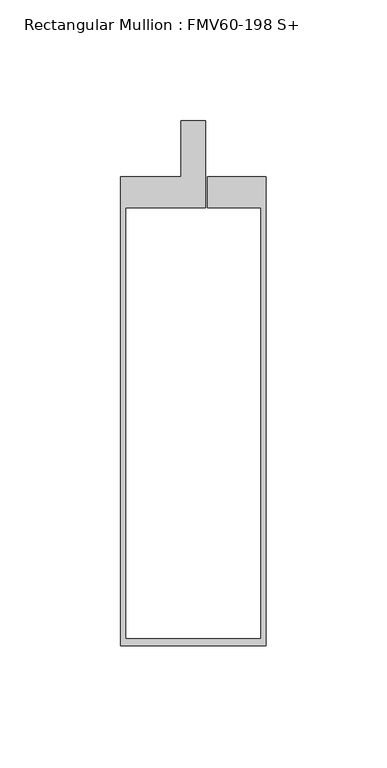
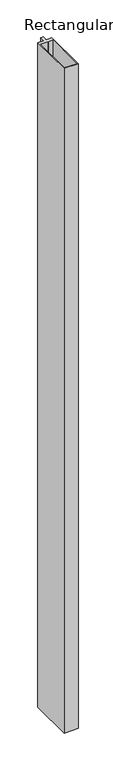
"""IFC4 building model written with IfcOpenShell, lengths in millimetres: member geometry, Rectangular Mullion : FMV60-198 S+."""

from ifc_helpers import new_model, si_unit, frame, origin, place, context, project, spatial, polyline, outline, extrude, source, transform, mapped, element, save


def rectangular_mullion_fmv60_198_s_cefb9c46(model_context):
    return source(origin(), model_context, "Body", "SweptSolid", [
        extrude(outline(polyline([(-5.0, 0.1), (-5.0, 23.0768801), (5.0, 23.0768801), (5.0, -12.9034168), (-28.0157965, -12.9034168), (-28.0157965, -190.9078947), (27.9840779, -190.9078947), (27.9840779, -12.9034168), (5.8, -12.9034168), (5.8, 0.1), (29.9842035, 0.1), (29.9842035, -193.9078947), (-30.0157965, -193.9078947), (-30.0157965, 0.1), (-5.0, 0.1)])), frame((0.0, 0.0, -3020.0), z_axis=(0.0, 0.0, 1.0), x_axis=(1.0, 0.0, 0.0)), (0.0, 0.0, 1.0), 3020.0),
    ])


if __name__ == "__main__":
    model = new_model("IFC4")
    model_context = context("Model", 3, world=origin())
    ifc_project = project(units=[si_unit("LENGTHUNIT", "METRE", prefix="MILLI")], contexts=[model_context])
    site = spatial("IfcSite", under=ifc_project)
    building = spatial("IfcBuilding", under=site)
    placement = place(None, origin())
    rectangular_mullion_fmv60_198_s_shape = rectangular_mullion_fmv60_198_s_cefb9c46(model_context)
    element("IfcMember", 1, ObjectType="Rectangular Mullion : FMV60-198 S+", at=placement, inside=building, context=model_context, shape_type="MappedRepresentation", body=[
        mapped(rectangular_mullion_fmv60_198_s_shape, transform((0.0, 0.0, 0.0), x_axis=(1.0, 0.0, 0.0), y_axis=(0.0, 1.0, 0.0), z_axis=(0.0, 0.0, 1.0))),
    ])
    save(model, "model.ifc")
